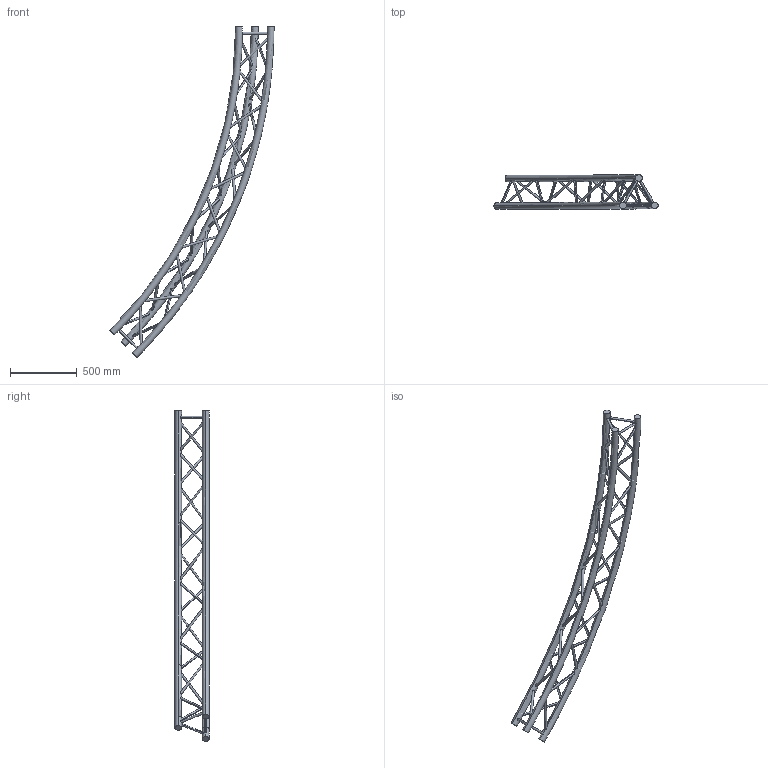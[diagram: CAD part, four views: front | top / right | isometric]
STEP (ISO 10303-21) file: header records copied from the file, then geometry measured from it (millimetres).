
FILE_DESCRIPTION (( 'STEP AP203' ), '1' );
FILE_NAME ('SXC29700PH.STEP', '2009-10-21T08:20:54', ( 'CEDIA' ), ( 'CEDIA INDUSTRIE' ), 'SwSTEP 2.0', 'SolidWorks 2009', '' );
FILE_SCHEMA (( 'CONFIG_CONTROL_DESIGN' ));
Length unit declared in the file: millimetre
Products named in the file (1): SXC29700PH
Bounding box: 1228.07 x 255.25 x 2474.87 mm (x, y, z)
Volume: 17392675.7 mm3; surface area: 1701452.4 mm2
Topology: 1 solids, 1 shells, 84 faces, 258 edges, 156 vertices
Faces by surface type: cylinder 72, torus 6, plane 6
Entity records: 9405 total; most frequent: CARTESIAN_POINT 7179, ORIENTED_EDGE 516, DIRECTION 326, EDGE_CURVE 258, VERTEX_POINT 156, B_SPLINE_CURVE_WITH_KNOTS 144, EDGE_LOOP 132, AXIS2_PLACEMENT_3D 127
